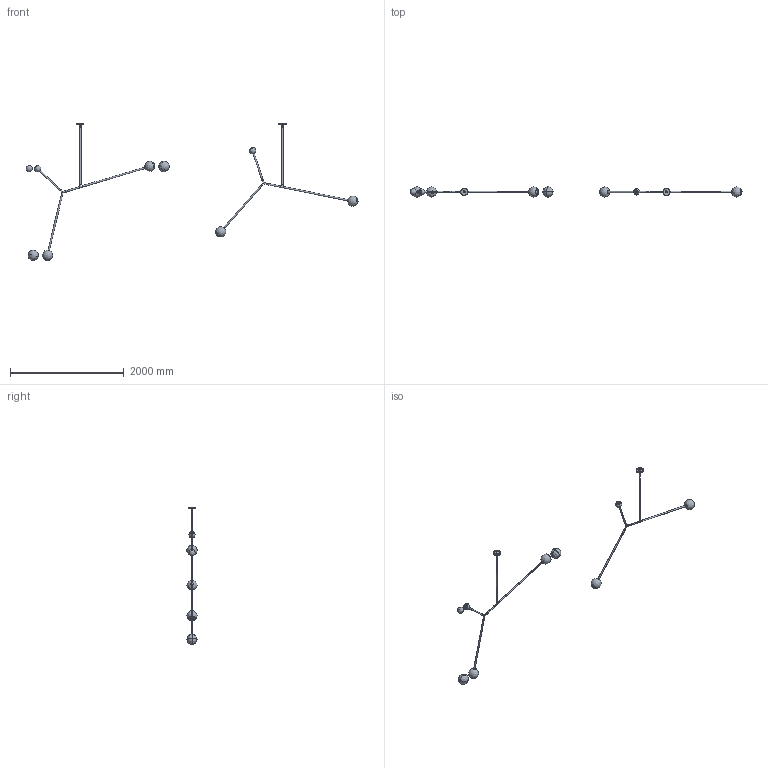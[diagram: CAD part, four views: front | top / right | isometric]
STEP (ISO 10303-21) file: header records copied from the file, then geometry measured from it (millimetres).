
FILE_DESCRIPTION(/* description */ (''),/* implementation_level */ '2;1');
FILE_NAME(/* name */ 'SkLO_LT902_Angle2.0Pendant_3D',/* time_stamp */ '2025-03-20T10:43:05+01:00',/* author */ (''),/* organization */ (''),/* preprocessor_version */ 'ST-DEVELOPER v16.5',/* originating_system */ 'Rhino 7.38',/* authorisation */ '');
FILE_SCHEMA (('CONFIG_CONTROL_DESIGN'));
Products named in the file (1): Document
Bounding box: 5832.84 x 180 x 2409.03 mm (x, y, z)
Volume: 4261988.1 mm3; surface area: 2877481.1 mm2
Topology: 111 solids, 113 shells, 3971 faces, 9941 edges, 6249 vertices
Faces by surface type: plane 1791, bspline 1171, cylinder 1009
Full cylindrical faces by diameter (mm): 3 x24, 5.065 x168, 7 x4, 8.775 x2, 8.8 x2, 9 x2, 9.185 x10, 10 x20, 10.725 x2, 11 x4, 12.8 x4, 13 x6, 20.58 x2, 20.787 x2, 20.788 x2, 20.8 x14, 20.85 x10, 21 x28, 23 x6, 23.92 x12, 25 x22, 27 x12, 27.877 x42, 29 x2, 30 x6, 34 x1, 35 x2, 38 x6, 42 x6, 127 x2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
Entity records: 821923 total; most frequent: CARTESIAN_POINT 757849, ORIENTED_EDGE 19632, EDGE_CURVE 9818, B_SPLINE_CURVE_WITH_KNOTS 6862, VERTEX_POINT 6247, EDGE_LOOP 4313, ADVANCED_FACE 3971, FACE_OUTER_BOUND 3971
